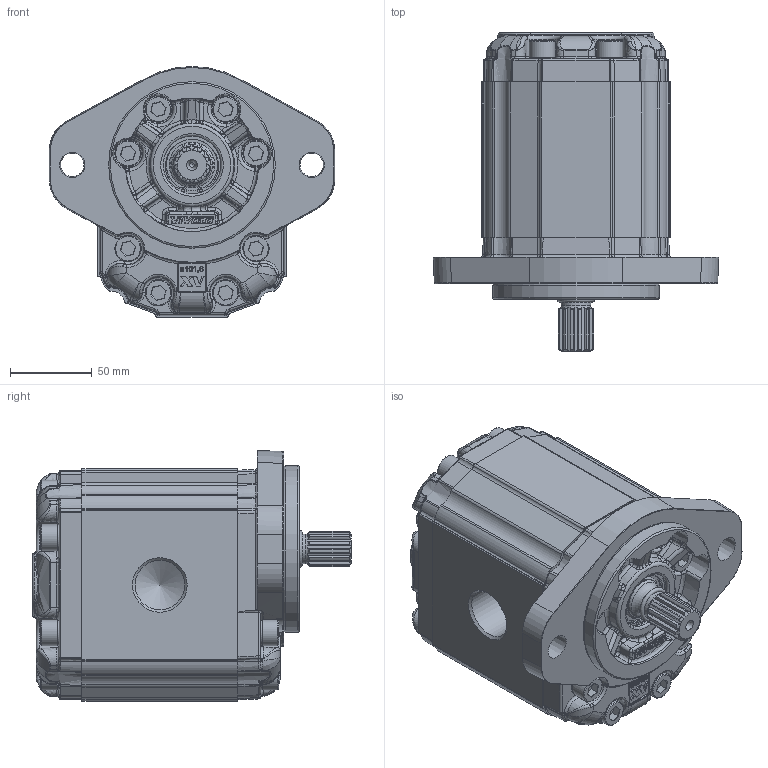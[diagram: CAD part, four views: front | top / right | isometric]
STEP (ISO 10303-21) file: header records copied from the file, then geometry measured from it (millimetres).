
FILE_DESCRIPTION( ( 'Unknown' ), '1' );
FILE_NAME( 'P:/montaggio_easy/output/STP/X3P8131IEEA.stp', 'Unknown', ( 'Unknown' ), ( 'Unknown' ), 'PSStep 14.0', 'Unknown', ' ' );
FILE_SCHEMA( ( 'AUTOMOTIVE_DESIGN { 1 0 10303 214 1 1 1 1 }' ) );
Length unit declared in the file: millimetre
Products named in the file (5): Assem1; X3P31; 3I; X3EEH95; XP331-A
Bounding box: 174 x 194.2 x 153 mm (x, y, z)
Volume: 4399257.8 mm3; surface area: 416839.1 mm2
Topology: 8 solids, 42 shells, 6076 faces, 15736 edges, 9924 vertices
Faces by surface type: bspline 2478, plane 1748, cylinder 1292, torus 184, cone 182, extrusion 104, revolution 54, sphere 32, offset 2
Full cylindrical faces by diameter (mm): 2 x4, 10 x32, 15.8 x32, 16 x32, 18 x4, 24.98 x2, 25 x4, 25.968 x2, 28.16 x2, 30.291 x4, 31.293 x2, 32.742 x2, 34.956 x2, 35 x2, 35.2 x2, 37 x2, 101.6 x2
Entity records: 170200 total; most frequent: CARTESIAN_POINT 87665, ORIENTED_EDGE 15300, EDGE_CURVE 7650, DIRECTION 6735, VERTEX_POINT 4901, B_SPLINE_CURVE_WITH_KNOTS 4526, EDGE_LOOP 3296, FACE_OUTER_BOUND 3132
